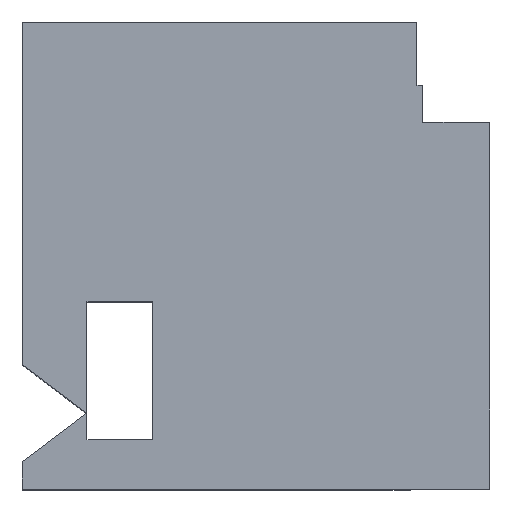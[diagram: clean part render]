
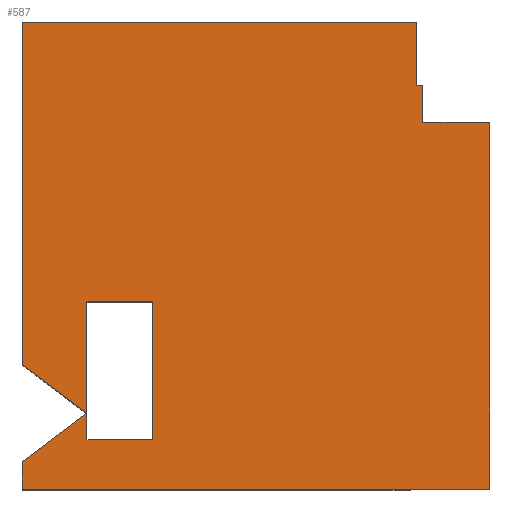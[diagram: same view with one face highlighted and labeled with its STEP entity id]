
A CAD part, top view. The second image highlights one B-rep face of the part: STEP entity #587.
In plain terms, the highlighted planar face has unit normal (0, 0, 1).
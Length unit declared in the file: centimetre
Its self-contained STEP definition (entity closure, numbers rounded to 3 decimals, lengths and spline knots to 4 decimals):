
#18 = EDGE_CURVE ( 'NONE', #563, #620, #506, .T. ) ;
#25 = ORIENTED_EDGE ( 'NONE', *, *, #225, .T. ) ;
#29 = VERTEX_POINT ( 'NONE', #512 ) ;
#33 = VERTEX_POINT ( 'NONE', #891 ) ;
#35 = CARTESIAN_POINT ( 'NONE',  ( 856.8889, 864.564, 1000. ) ) ;
#53 = CARTESIAN_POINT ( 'NONE',  ( 0., 1000., 1000. ) ) ;
#62 = LINE ( 'NONE', #362, #820 ) ;
#63 = ORIENTED_EDGE ( 'NONE', *, *, #923, .T. ) ;
#71 = DIRECTION ( 'NONE',  ( 0., 1., 0. ) ) ;
#76 = DIRECTION ( 'NONE',  ( 0., -1., 0. ) ) ;
#79 = CARTESIAN_POINT ( 'NONE',  ( 138.2366, 105.5787, 1000. ) ) ;
#80 = LINE ( 'NONE', #902, #555 ) ;
#92 = EDGE_CURVE ( 'NONE', #264, #445, #312, .T. ) ;
#93 = ORIENTED_EDGE ( 'NONE', *, *, #844, .F. ) ;
#104 = AXIS2_PLACEMENT_3D ( 'NONE', #203, #852, #938 ) ;
#108 = CARTESIAN_POINT ( 'NONE',  ( 0., 58.785, 1000. ) ) ;
#123 = VECTOR ( 'NONE', #785, 100. ) ;
#125 = EDGE_CURVE ( 'NONE', #394, #484, #80, .T. ) ;
#132 = DIRECTION ( 'NONE',  ( 0., 1., 0. ) ) ;
#134 = ORIENTED_EDGE ( 'NONE', *, *, #92, .F. ) ;
#136 = LINE ( 'NONE', #346, #821 ) ;
#158 = CARTESIAN_POINT ( 'NONE',  ( 0., 1000., 1000. ) ) ;
#159 = CARTESIAN_POINT ( 'NONE',  ( 137.5567, 162.7637, 1000. ) ) ;
#166 = CARTESIAN_POINT ( 'NONE',  ( 844.2514, 864.564, 1000. ) ) ;
#192 = CARTESIAN_POINT ( 'NONE',  ( 856.8889, 785.2331, 1000. ) ) ;
#200 = ORIENTED_EDGE ( 'NONE', *, *, #569, .T. ) ;
#203 = CARTESIAN_POINT ( 'NONE',  ( 0., 0., 1000. ) ) ;
#205 = VECTOR ( 'NONE', #907, 100. ) ;
#209 = CARTESIAN_POINT ( 'NONE',  ( 0., 1000., 1000. ) ) ;
#210 = CARTESIAN_POINT ( 'NONE',  ( 279.2133, 105.5787, 1000. ) ) ;
#214 = CARTESIAN_POINT ( 'NONE',  ( 1000., 1000., 1000. ) ) ;
#225 = EDGE_CURVE ( 'NONE', #404, #931, #514, .T. ) ;
#243 = CARTESIAN_POINT ( 'NONE',  ( 138.2366, 401.7243, 1000. ) ) ;
#247 = VECTOR ( 'NONE', #71, 100. ) ;
#264 = VERTEX_POINT ( 'NONE', #440 ) ;
#265 = CARTESIAN_POINT ( 'NONE',  ( 279.2133, 401.7243, 1000. ) ) ;
#274 = CARTESIAN_POINT ( 'NONE',  ( 0., 0., 1000. ) ) ;
#277 = VERTEX_POINT ( 'NONE', #79 ) ;
#295 = VECTOR ( 'NONE', #631, 100. ) ;
#296 = VECTOR ( 'NONE', #716, 100. ) ;
#304 = EDGE_CURVE ( 'NONE', #766, #33, #305, .T. ) ;
#305 = LINE ( 'NONE', #214, #247 ) ;
#312 = LINE ( 'NONE', #159, #818 ) ;
#322 = CARTESIAN_POINT ( 'NONE',  ( 279.2133, 105.5787, 1000. ) ) ;
#335 = EDGE_CURVE ( 'NONE', #277, #686, #62, .T. ) ;
#345 = CARTESIAN_POINT ( 'NONE',  ( 0., 1000., 1000. ) ) ;
#346 = CARTESIAN_POINT ( 'NONE',  ( 138.2366, 105.5787, 1000. ) ) ;
#349 = FACE_OUTER_BOUND ( 'NONE', #369, .T. ) ;
#354 = ORIENTED_EDGE ( 'NONE', *, *, #741, .F. ) ;
#362 = CARTESIAN_POINT ( 'NONE',  ( 138.2366, 105.5787, 1000. ) ) ;
#369 = EDGE_LOOP ( 'NONE', ( #691, #63, #541, #450, #625, #134, #354, #25, #200, #693, #483 ) ) ;
#371 = VECTOR ( 'NONE', #132, 100. ) ;
#381 = DIRECTION ( 'NONE',  ( 0., 1., 0. ) ) ;
#385 = CARTESIAN_POINT ( 'NONE',  ( 0., 58.785, 1000. ) ) ;
#391 = CARTESIAN_POINT ( 'NONE',  ( 1000., 0., 1000. ) ) ;
#394 = VERTEX_POINT ( 'NONE', #166 ) ;
#396 = LINE ( 'NONE', #108, #205 ) ;
#400 = EDGE_CURVE ( 'NONE', #572, #29, #464, .T. ) ;
#404 = VERTEX_POINT ( 'NONE', #385 ) ;
#417 = CARTESIAN_POINT ( 'NONE',  ( 0., 0., 1000. ) ) ;
#440 = CARTESIAN_POINT ( 'NONE',  ( 137.5567, 162.7637, 1000. ) ) ;
#445 = VERTEX_POINT ( 'NONE', #688 ) ;
#450 = ORIENTED_EDGE ( 'NONE', *, *, #544, .T. ) ;
#464 = LINE ( 'NONE', #243, #648 ) ;
#483 = ORIENTED_EDGE ( 'NONE', *, *, #702, .F. ) ;
#484 = VERTEX_POINT ( 'NONE', #862 ) ;
#491 = VECTOR ( 'NONE', #76, 100. ) ;
#495 = LINE ( 'NONE', #417, #296 ) ;
#506 = LINE ( 'NONE', #961, #491 ) ;
#510 = EDGE_CURVE ( 'NONE', #676, #445, #560, .T. ) ;
#512 = CARTESIAN_POINT ( 'NONE',  ( 138.2366, 401.7243, 1000. ) ) ;
#514 = LINE ( 'NONE', #158, #740 ) ;
#541 = ORIENTED_EDGE ( 'NONE', *, *, #125, .T. ) ;
#544 = EDGE_CURVE ( 'NONE', #484, #676, #797, .T. ) ;
#555 = VECTOR ( 'NONE', #381, 100. ) ;
#559 = ORIENTED_EDGE ( 'NONE', *, *, #913, .F. ) ;
#560 = LINE ( 'NONE', #345, #295 ) ;
#563 = VERTEX_POINT ( 'NONE', #35 ) ;
#569 = EDGE_CURVE ( 'NONE', #931, #766, #495, .T. ) ;
#572 = VERTEX_POINT ( 'NONE', #265 ) ;
#577 = DIRECTION ( 'NONE',  ( 0., -1., 0. ) ) ;
#587 = ADVANCED_FACE ( 'NONE', ( #349, #640 ), #936, .T. ) ;
#611 = LINE ( 'NONE', #706, #839 ) ;
#612 = ORIENTED_EDGE ( 'NONE', *, *, #400, .F. ) ;
#620 = VERTEX_POINT ( 'NONE', #192 ) ;
#625 = ORIENTED_EDGE ( 'NONE', *, *, #510, .T. ) ;
#631 = DIRECTION ( 'NONE',  ( 0., -1., 0. ) ) ;
#640 = FACE_BOUND ( 'NONE', #922, .T. ) ;
#642 = CARTESIAN_POINT ( 'NONE',  ( 844.2514, 864.564, 1000. ) ) ;
#646 = LINE ( 'NONE', #210, #371 ) ;
#648 = VECTOR ( 'NONE', #916, 100. ) ;
#670 = DIRECTION ( 'NONE',  ( 1., 0., 0. ) ) ;
#676 = VERTEX_POINT ( 'NONE', #53 ) ;
#686 = VERTEX_POINT ( 'NONE', #322 ) ;
#688 = CARTESIAN_POINT ( 'NONE',  ( 0., 266.7425, 1000. ) ) ;
#691 = ORIENTED_EDGE ( 'NONE', *, *, #18, .F. ) ;
#693 = ORIENTED_EDGE ( 'NONE', *, *, #304, .T. ) ;
#702 = EDGE_CURVE ( 'NONE', #620, #33, #611, .T. ) ;
#706 = CARTESIAN_POINT ( 'NONE',  ( 856.8889, 785.2331, 1000. ) ) ;
#716 = DIRECTION ( 'NONE',  ( 1., 0., 0. ) ) ;
#740 = VECTOR ( 'NONE', #811, 100. ) ;
#741 = EDGE_CURVE ( 'NONE', #404, #264, #396, .T. ) ;
#750 = DIRECTION ( 'NONE',  ( -0.798, 0.603, 0. ) ) ;
#766 = VERTEX_POINT ( 'NONE', #391 ) ;
#782 = ORIENTED_EDGE ( 'NONE', *, *, #335, .F. ) ;
#785 = DIRECTION ( 'NONE',  ( -1., 0., 0. ) ) ;
#797 = LINE ( 'NONE', #209, #123 ) ;
#798 = LINE ( 'NONE', #642, #883 ) ;
#811 = DIRECTION ( 'NONE',  ( 0., -1., 0. ) ) ;
#818 = VECTOR ( 'NONE', #750, 100. ) ;
#820 = VECTOR ( 'NONE', #670, 100. ) ;
#821 = VECTOR ( 'NONE', #577, 100. ) ;
#839 = VECTOR ( 'NONE', #848, 100. ) ;
#844 = EDGE_CURVE ( 'NONE', #29, #277, #136, .T. ) ;
#848 = DIRECTION ( 'NONE',  ( 1., 0., 0. ) ) ;
#852 = DIRECTION ( 'NONE',  ( 0., 0., 1. ) ) ;
#862 = CARTESIAN_POINT ( 'NONE',  ( 844.2514, 1000., 1000. ) ) ;
#883 = VECTOR ( 'NONE', #937, 100. ) ;
#891 = CARTESIAN_POINT ( 'NONE',  ( 1000., 785.2331, 1000. ) ) ;
#902 = CARTESIAN_POINT ( 'NONE',  ( 844.2514, 864.564, 1000. ) ) ;
#907 = DIRECTION ( 'NONE',  ( 0.798, 0.603, 0. ) ) ;
#913 = EDGE_CURVE ( 'NONE', #686, #572, #646, .T. ) ;
#916 = DIRECTION ( 'NONE',  ( -1., 0., 0. ) ) ;
#922 = EDGE_LOOP ( 'NONE', ( #93, #612, #559, #782 ) ) ;
#923 = EDGE_CURVE ( 'NONE', #563, #394, #798, .T. ) ;
#931 = VERTEX_POINT ( 'NONE', #274 ) ;
#936 = PLANE ( 'NONE',  #104 ) ;
#937 = DIRECTION ( 'NONE',  ( -1., 0., 0. ) ) ;
#938 = DIRECTION ( 'NONE',  ( 1., 0., 0. ) ) ;
#961 = CARTESIAN_POINT ( 'NONE',  ( 856.8889, 785.2331, 1000. ) ) ;
